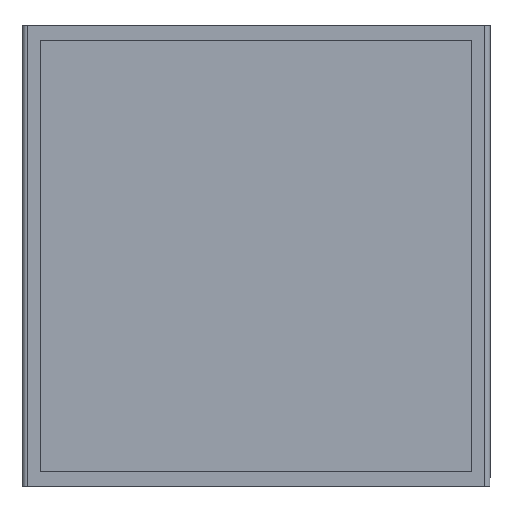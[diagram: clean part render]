
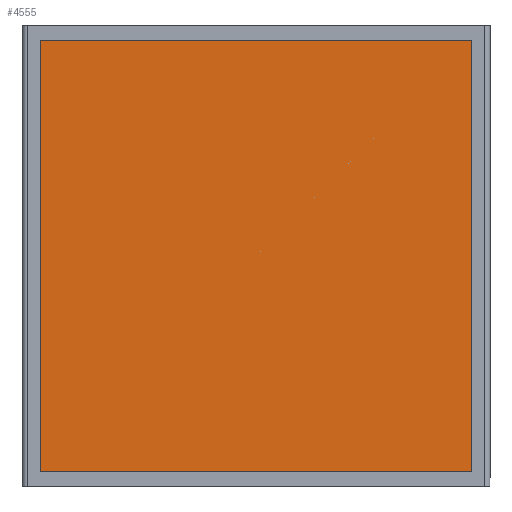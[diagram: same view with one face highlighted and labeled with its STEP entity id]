
A CAD part, front view. The second image highlights one B-rep face of the part: STEP entity #4555.
In plain terms, the highlighted planar face has unit normal (0, -1, 0).
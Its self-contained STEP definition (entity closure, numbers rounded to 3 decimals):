
#40 = LINE ( 'NONE', #2843, #2685 ) ;
#404 = PLANE ( 'NONE',  #1425 ) ;
#460 = ORIENTED_EDGE ( 'NONE', *, *, #683, .F. ) ;
#580 = ORIENTED_EDGE ( 'NONE', *, *, #2230, .F. ) ;
#640 = EDGE_CURVE ( 'NONE', #2741, #4640, #1800, .T. ) ;
#683 = EDGE_CURVE ( 'NONE', #3082, #947, #4207, .T. ) ;
#757 = CARTESIAN_POINT ( 'NONE',  ( -11.919, -3.447, 13.523 ) ) ;
#889 = CARTESIAN_POINT ( 'NONE',  ( 9.081, -3.447, -7.477 ) ) ;
#907 = CARTESIAN_POINT ( 'NONE',  ( 9.081, -3.447, 13.523 ) ) ;
#947 = VERTEX_POINT ( 'NONE', #889 ) ;
#1122 = CARTESIAN_POINT ( 'NONE',  ( -11.919, -3.447, -7.477 ) ) ;
#1193 = ORIENTED_EDGE ( 'NONE', *, *, #640, .F. ) ;
#1218 = DIRECTION ( 'NONE',  ( 0., 0., -1. ) ) ;
#1257 = EDGE_CURVE ( 'NONE', #947, #2741, #1714, .T. ) ;
#1261 = ORIENTED_EDGE ( 'NONE', *, *, #1257, .F. ) ;
#1425 = AXIS2_PLACEMENT_3D ( 'NONE', #757, #3860, #3457 ) ;
#1714 = LINE ( 'NONE', #2894, #4222 ) ;
#1800 = LINE ( 'NONE', #4460, #2003 ) ;
#2003 = VECTOR ( 'NONE', #3351, 1000. ) ;
#2230 = EDGE_CURVE ( 'NONE', #4640, #3082, #40, .T. ) ;
#2549 = CARTESIAN_POINT ( 'NONE',  ( -11.919, -3.447, 13.523 ) ) ;
#2685 = VECTOR ( 'NONE', #4401, 1000. ) ;
#2741 = VERTEX_POINT ( 'NONE', #1122 ) ;
#2759 = CARTESIAN_POINT ( 'NONE',  ( 9.081, -3.447, -7.477 ) ) ;
#2843 = CARTESIAN_POINT ( 'NONE',  ( -11.919, -3.447, 13.523 ) ) ;
#2894 = CARTESIAN_POINT ( 'NONE',  ( -11.919, -3.447, -7.477 ) ) ;
#2912 = EDGE_LOOP ( 'NONE', ( #1193, #1261, #460, #580 ) ) ;
#3082 = VERTEX_POINT ( 'NONE', #907 ) ;
#3196 = VECTOR ( 'NONE', #1218, 1000. ) ;
#3351 = DIRECTION ( 'NONE',  ( 0., 0., 1. ) ) ;
#3457 = DIRECTION ( 'NONE',  ( 0., 0., 1. ) ) ;
#3860 = DIRECTION ( 'NONE',  ( 0., 1., 0. ) ) ;
#4207 = LINE ( 'NONE', #2759, #3196 ) ;
#4222 = VECTOR ( 'NONE', #4899, 1000. ) ;
#4401 = DIRECTION ( 'NONE',  ( 1., 0., 0. ) ) ;
#4460 = CARTESIAN_POINT ( 'NONE',  ( -11.919, -3.447, -7.477 ) ) ;
#4555 = ADVANCED_FACE ( 'NONE', ( #4603 ), #404, .F. ) ;
#4603 = FACE_OUTER_BOUND ( 'NONE', #2912, .T. ) ;
#4640 = VERTEX_POINT ( 'NONE', #2549 ) ;
#4899 = DIRECTION ( 'NONE',  ( -1., 0., 0. ) ) ;
